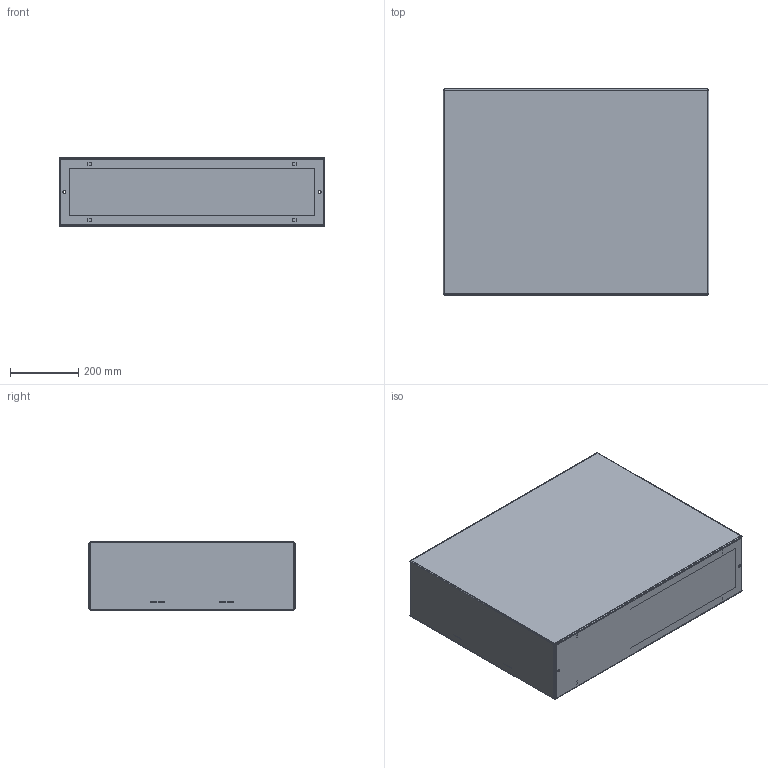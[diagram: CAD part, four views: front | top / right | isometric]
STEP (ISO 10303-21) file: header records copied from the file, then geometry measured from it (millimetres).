
FILE_DESCRIPTION (( 'STEP AP203' ), '1' );
FILE_NAME ('EUZE_0600X0800X0200 STA_ENUX.STEP', '2015-02-20T16:15:19', ( 'Admin' ), ( '' ), 'SwSTEP 2.0', 'SolidWorks 2014', '' );
FILE_SCHEMA (( 'CONFIG_CONTROL_DESIGN' ));
Length unit declared in the file: millimetre
Products named in the file (1): EUZE_0600X0800X0200 STA_ENUX
Bounding box: 778 x 605 x 200 mm (x, y, z)
Volume: 2783032.8 mm3; surface area: 2624166.4 mm2
Topology: 1 solids, 1 shells, 229 faces, 568 edges, 348 vertices
Faces by surface type: plane 141, cylinder 68, sphere 16, cone 4
Entity records: 6705 total; most frequent: CARTESIAN_POINT 1148, DIRECTION 1138, ORIENTED_EDGE 1104, EDGE_CURVE 552, VECTOR 414, LINE 414, AXIS2_PLACEMENT_3D 362, VERTEX_POINT 348
